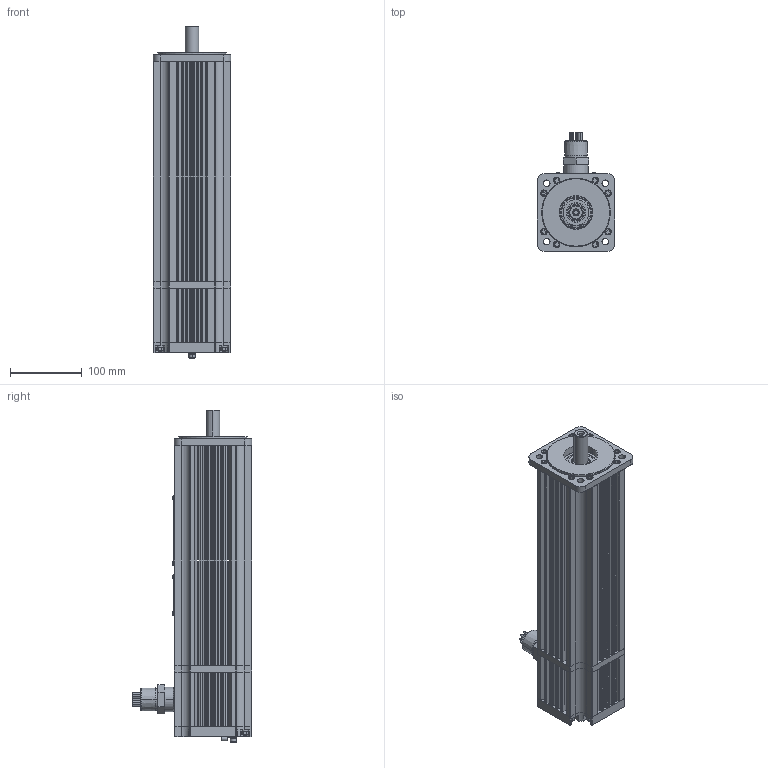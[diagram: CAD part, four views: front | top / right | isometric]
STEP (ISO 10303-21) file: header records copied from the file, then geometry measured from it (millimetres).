
FILE_DESCRIPTION (( 'STEP AP203' ), '1' );
FILE_NAME ('M443-ENNB-9T08.STEP', '2009-03-13T18:30:20', ( 'New3' ), ( 'Elwood Corp.' ), 'SwSTEP 2.0', 'SolidWorks 2009', '' );
FILE_SCHEMA (( 'CONFIG_CONTROL_DESIGN' ));
Length unit declared in the file: inch
Products named in the file (1): M443-ENNB-9T08
Bounding box: 108 x 166.17 x 462.12 mm (x, y, z)
Surface area: 297908.1 mm2 (no closed solid volume)
Topology: 0 solids, 74 shells, 1159 faces, 4723 edges, 3580 vertices
Faces by surface type: plane 632, cylinder 404, cone 61, bspline 43, torus 19
Entity records: 56676 total; most frequent: CARTESIAN_POINT 18384, DIRECTION 7587, ORIENTED_EDGE 7085, EDGE_CURVE 4723, VERTEX_POINT 3580, VECTOR 3113, LINE 3113, AXIS2_PLACEMENT_3D 2237
